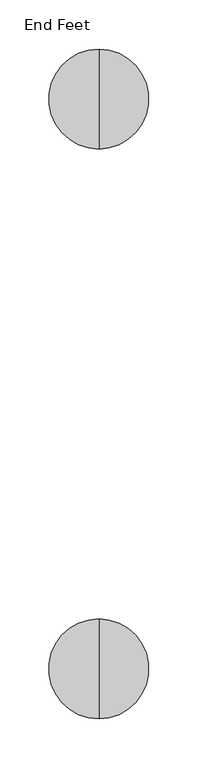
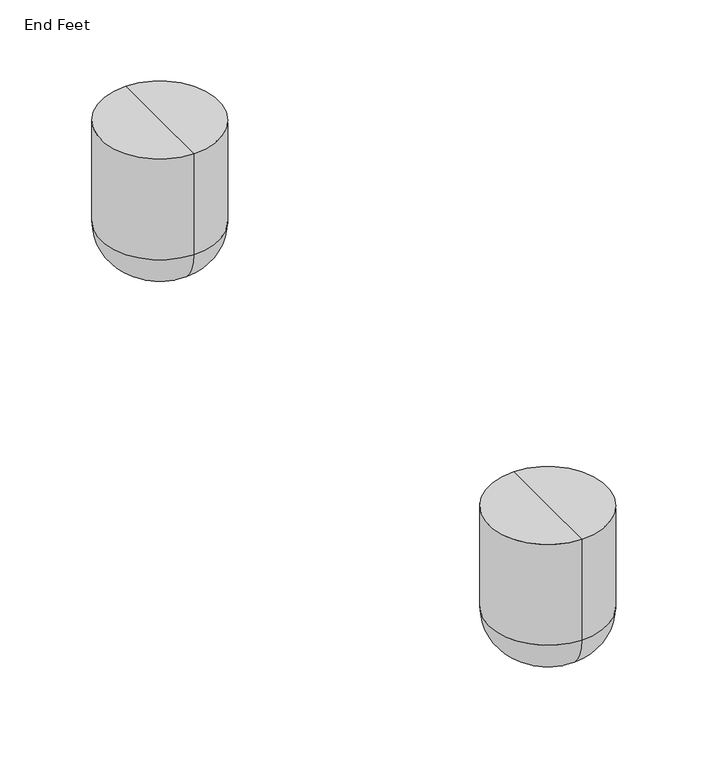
"""IFC4 building model written with IfcOpenShell, lengths in millimetres: furniture geometry, Coalesse_AM_Ensemble_Bench_EndOption : End Feet."""

from ifc_helpers import new_model, si_unit, point, frame, origin, place, context, project, spatial, circle_curve, ellipse_curve, trimmed, source, transform, mapped, element, save
from ifc_brep_helpers import plane_surface, cylinder_surface, revolved_surface, advanced_brep


def end_feet_ee971b91(model_context):
    return source(origin(), model_context, "Body", "AdvancedBrep", [
        advanced_brep(
        [(57.502012, 747.4877706, 130.0907271), (57.502012, 645.5490367, 130.0907271), (57.502012, 696.5184037, 130.0907271), (57.502012, 747.4877706, 38.1), (57.502012, 645.5490367, 38.1), (57.502012, 709.3877706, 0.0), (57.502012, 683.6490367, 0.0), (57.502012, 696.5184037, 0.0)],
        [
            (0, 1, circle_curve(frame((57.502012, 696.5184037, 130.0907271), z_axis=(0.0, 0.0, 1.0), x_axis=(0.0, -1.0, 0.0)), 50.969367)),
            (1, 2),
            (2, 0),
            (1, 0, circle_curve(frame((57.502012, 696.5184037, 130.0907271), z_axis=(0.0, 0.0, 1.0), x_axis=(0.0, -1.0, 0.0)), 50.969367)),
            (3, 4, circle_curve(frame((57.502012, 696.5184037, 38.1), z_axis=(0.0, 0.0, 1.0), x_axis=(0.0, -1.0, 0.0)), 50.969367)),
            (4, 1),
            (0, 3),
            (4, 3, circle_curve(frame((57.502012, 696.5184037, 38.1), z_axis=(0.0, 0.0, 1.0), x_axis=(0.0, -1.0, 0.0)), 50.969367)),
            (5, 6, circle_curve(frame((57.502012, 696.5184037, 0.0), z_axis=(0.0, 0.0, 1.0), x_axis=(0.0, -1.0, 0.0)), 12.869367)),
            (6, 4, circle_curve(frame((57.502012, 683.6490367, 38.1), z_axis=(-1.0, 0.0, 0.0), x_axis=(0.0, -1.0, 0.0)), 38.1)),
            (3, 5, circle_curve(frame((57.502012, 709.3877706, 38.1), z_axis=(-1.0, 0.0, 0.0), x_axis=(0.0, 1.0, 0.0)), 38.1)),
            (6, 5, circle_curve(frame((57.502012, 696.5184037, 0.0), z_axis=(0.0, 0.0, 1.0), x_axis=(0.0, -1.0, 0.0)), 12.869367)),
            (7, 6),
            (5, 7),
        ],
        [
            plane_surface(frame((57.502012, 696.5184037, 130.0907271), z_axis=(0.0, 0.0, 1.0), x_axis=(0.0, -1.0, 0.0))),
            cylinder_surface(frame((57.502012, 696.5184037, 130.0907271), z_axis=(0.0, 0.0, -1.0), x_axis=(0.0, -1.0, 0.0)), 50.969367),
            revolved_surface(trimmed(ellipse_curve(frame((57.502012, 683.6490367, 38.1), z_axis=(1.0, 0.0, 0.0), x_axis=(0.0, -1.0, 0.0)), 38.1, 38.1), [point((57.502012, 645.5490367, 38.1))], [point((57.502012, 683.6490367, 0.0))], True, "CARTESIAN"), (57.502012, 696.5184037, 130.0907271), (0.0, 0.0, -1.0)),
            plane_surface(frame((57.502012, 696.5184037, 0.0), z_axis=(0.0, 0.0, -1.0), x_axis=(0.0, -1.0, 0.0))),
        ],
        [
            (0, [[1, 2, 3]]),
            (0, [[4, -3, -2]]),
            (1, [[5, 6, -1, 7]]),
            (1, [[8, -7, -4, -6]]),
            (2, [[9, 10, -5, 11]]),
            (2, [[12, -11, -8, -10]]),
            (3, [[13, -9, 14]]),
            (3, [[-14, -12, -13]]),
        ],
    ),
        advanced_brep(
        [(57.502012, 166.4627706, 130.0907271), (57.502012, 64.5240367, 130.0907271), (57.502012, 115.4934037, 130.0907271), (57.502012, 166.4627706, 38.1), (57.502012, 64.5240367, 38.1), (57.502012, 128.3627706, 0.0), (57.502012, 102.6240367, 0.0), (57.502012, 115.4934037, 0.0)],
        [
            (0, 1, circle_curve(frame((57.502012, 115.4934037, 130.0907271), z_axis=(0.0, 0.0, 1.0), x_axis=(0.0, -1.0, 0.0)), 50.969367)),
            (1, 2),
            (2, 0),
            (1, 0, circle_curve(frame((57.502012, 115.4934037, 130.0907271), z_axis=(0.0, 0.0, 1.0), x_axis=(0.0, -1.0, 0.0)), 50.969367)),
            (3, 4, circle_curve(frame((57.502012, 115.4934037, 38.1), z_axis=(0.0, 0.0, 1.0), x_axis=(0.0, -1.0, 0.0)), 50.969367)),
            (4, 1),
            (0, 3),
            (4, 3, circle_curve(frame((57.502012, 115.4934037, 38.1), z_axis=(0.0, 0.0, 1.0), x_axis=(0.0, -1.0, 0.0)), 50.969367)),
            (5, 6, circle_curve(frame((57.502012, 115.4934037, 0.0), z_axis=(0.0, 0.0, 1.0), x_axis=(0.0, -1.0, 0.0)), 12.869367)),
            (6, 4, circle_curve(frame((57.502012, 102.6240367, 38.1), z_axis=(-1.0, 0.0, 0.0), x_axis=(0.0, -1.0, 0.0)), 38.1)),
            (3, 5, circle_curve(frame((57.502012, 128.3627706, 38.1), z_axis=(-1.0, 0.0, 0.0), x_axis=(0.0, 1.0, 0.0)), 38.1)),
            (6, 5, circle_curve(frame((57.502012, 115.4934037, 0.0), z_axis=(0.0, 0.0, 1.0), x_axis=(0.0, -1.0, 0.0)), 12.869367)),
            (7, 6),
            (5, 7),
        ],
        [
            plane_surface(frame((57.502012, 115.4934037, 130.0907271), z_axis=(0.0, 0.0, 1.0), x_axis=(0.0, -1.0, 0.0))),
            cylinder_surface(frame((57.502012, 115.4934037, 130.0907271), z_axis=(0.0, 0.0, -1.0), x_axis=(0.0, -1.0, 0.0)), 50.969367),
            revolved_surface(trimmed(ellipse_curve(frame((57.502012, 102.6240367, 38.1), z_axis=(1.0, 0.0, 0.0), x_axis=(0.0, -1.0, 0.0)), 38.1, 38.1), [point((57.502012, 64.5240367, 38.1))], [point((57.502012, 102.6240367, 0.0))], True, "CARTESIAN"), (57.502012, 115.4934037, 130.0907271), (0.0, 0.0, -1.0)),
            plane_surface(frame((57.502012, 115.4934037, 0.0), z_axis=(0.0, 0.0, -1.0), x_axis=(0.0, -1.0, 0.0))),
        ],
        [
            (0, [[1, 2, 3]]),
            (0, [[4, -3, -2]]),
            (1, [[5, 6, -1, 7]]),
            (1, [[8, -7, -4, -6]]),
            (2, [[9, 10, -5, 11]]),
            (2, [[12, -11, -8, -10]]),
            (3, [[13, -9, 14]]),
            (3, [[-14, -12, -13]]),
        ],
    ),
    ])


if __name__ == "__main__":
    model = new_model("IFC4")
    model_context = context("Model", 3, world=origin())
    ifc_project = project(units=[si_unit("LENGTHUNIT", "METRE", prefix="MILLI")], contexts=[model_context])
    site = spatial("IfcSite", under=ifc_project)
    building = spatial("IfcBuilding", under=site)
    placement = place(None, origin())
    end_feet_shape = end_feet_ee971b91(model_context)
    element("IfcFurniture", 1, ObjectType="Coalesse_AM_Ensemble_Bench_EndOption : End Feet", at=placement, inside=building, context=model_context, shape_type="MappedRepresentation", body=[
        mapped(end_feet_shape, transform((0.0, 0.0, 0.0), x_axis=(1.0, 0.0, 0.0), y_axis=(0.0, 1.0, 0.0), z_axis=(0.0, 0.0, 1.0))),
    ])
    save(model, "model.ifc")
